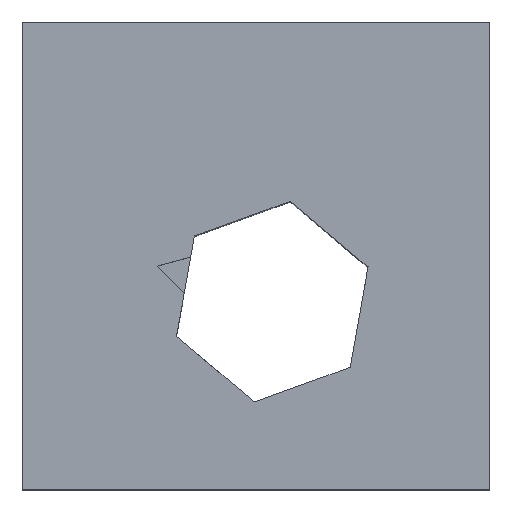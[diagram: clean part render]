
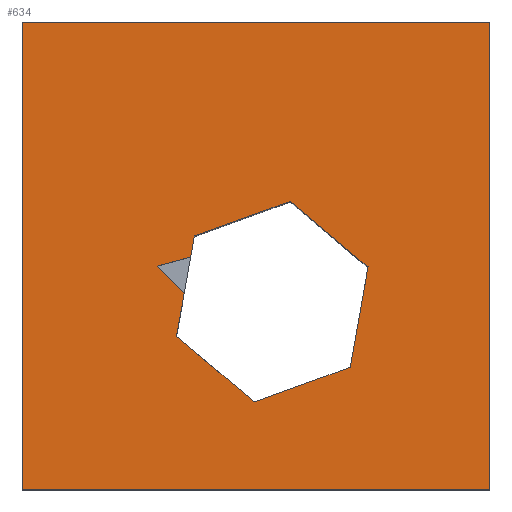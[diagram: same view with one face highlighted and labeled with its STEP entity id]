
A CAD part, top view. The second image highlights one B-rep face of the part: STEP entity #634.
In plain terms, the highlighted planar face has unit normal (0, 0, 1).
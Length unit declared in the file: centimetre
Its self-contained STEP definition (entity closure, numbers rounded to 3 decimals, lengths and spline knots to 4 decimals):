
#4 = LINE ( 'NONE', #356, #150 ) ;
#9 = VECTOR ( 'NONE', #450, 100. ) ;
#10 = VERTEX_POINT ( 'NONE', #276 ) ;
#11 = LINE ( 'NONE', #170, #571 ) ;
#12 = CARTESIAN_POINT ( 'NONE',  ( 0., 0., 1000. ) ) ;
#15 = DIRECTION ( 'NONE',  ( 0., 0., 1. ) ) ;
#22 = ORIENTED_EDGE ( 'NONE', *, *, #252, .T. ) ;
#23 = VERTEX_POINT ( 'NONE', #228 ) ;
#31 = LINE ( 'NONE', #140, #367 ) ;
#40 = LINE ( 'NONE', #408, #209 ) ;
#57 = CARTESIAN_POINT ( 'NONE',  ( 289.2115, 478.3214, 1000. ) ) ;
#68 = EDGE_CURVE ( 'NONE', #205, #74, #595, .T. ) ;
#70 = ORIENTED_EDGE ( 'NONE', *, *, #584, .F. ) ;
#74 = VERTEX_POINT ( 'NONE', #477 ) ;
#76 = CARTESIAN_POINT ( 'NONE',  ( 739.5676, 476.2735, 1000. ) ) ;
#87 = VECTOR ( 'NONE', #380, 100. ) ;
#97 = CARTESIAN_POINT ( 'NONE',  ( 1000., 1000., 1000. ) ) ;
#107 = VERTEX_POINT ( 'NONE', #235 ) ;
#109 = DIRECTION ( 'NONE',  ( -0.966, -0.26, 0. ) ) ;
#118 = VERTEX_POINT ( 'NONE', #97 ) ;
#121 = CARTESIAN_POINT ( 'NONE',  ( 368.1847, 542.496, 1000. ) ) ;
#127 = ORIENTED_EDGE ( 'NONE', *, *, #206, .T. ) ;
#140 = CARTESIAN_POINT ( 'NONE',  ( 0., 1000., 1000. ) ) ;
#148 = LINE ( 'NONE', #254, #9 ) ;
#150 = VECTOR ( 'NONE', #353, 100. ) ;
#155 = DIRECTION ( 'NONE',  ( -1., 0., 0. ) ) ;
#157 = EDGE_CURVE ( 'NONE', #174, #537, #31, .T. ) ;
#158 = DIRECTION ( 'NONE',  ( 0., 1., 0. ) ) ;
#159 = DIRECTION ( 'NONE',  ( 1., 0., 0. ) ) ;
#163 = CARTESIAN_POINT ( 'NONE',  ( 0., 0., 1000. ) ) ;
#170 = CARTESIAN_POINT ( 'NONE',  ( 628.5554, 569.7887, 1000. ) ) ;
#174 = VERTEX_POINT ( 'NONE', #241 ) ;
#189 = DIRECTION ( 'NONE',  ( 0., -1., 0. ) ) ;
#201 = LINE ( 'NONE', #598, #219 ) ;
#203 = LINE ( 'NONE', #357, #555 ) ;
#205 = VERTEX_POINT ( 'NONE', #638 ) ;
#206 = EDGE_CURVE ( 'NONE', #518, #531, #297, .T. ) ;
#209 = VECTOR ( 'NONE', #655, 100. ) ;
#216 = DIRECTION ( 'NONE',  ( 1., 0., 0. ) ) ;
#219 = VECTOR ( 'NONE', #639, 100. ) ;
#222 = EDGE_LOOP ( 'NONE', ( #256, #275, #371, #328 ) ) ;
#226 = DIRECTION ( 'NONE',  ( 0.176, 0.984, 0. ) ) ;
#228 = CARTESIAN_POINT ( 'NONE',  ( 496.5258, 187.7577, 1000. ) ) ;
#235 = CARTESIAN_POINT ( 'NONE',  ( 1000., 0., 1000. ) ) ;
#241 = CARTESIAN_POINT ( 'NONE',  ( 0., 1000., 1000. ) ) ;
#243 = EDGE_CURVE ( 'NONE', #485, #518, #40, .T. ) ;
#252 = EDGE_CURVE ( 'NONE', #531, #23, #148, .T. ) ;
#254 = CARTESIAN_POINT ( 'NONE',  ( 701.334, 261.8555, 1000. ) ) ;
#255 = EDGE_CURVE ( 'NONE', #118, #174, #203, .T. ) ;
#256 = ORIENTED_EDGE ( 'NONE', *, *, #157, .T. ) ;
#259 = VECTOR ( 'NONE', #158, 100. ) ;
#263 = CARTESIAN_POINT ( 'NONE',  ( 0., 0., 1000. ) ) ;
#270 = ORIENTED_EDGE ( 'NONE', *, *, #243, .T. ) ;
#275 = ORIENTED_EDGE ( 'NONE', *, *, #659, .T. ) ;
#276 = CARTESIAN_POINT ( 'NONE',  ( 360.1511, 497.4426, 1000. ) ) ;
#277 = CARTESIAN_POINT ( 'NONE',  ( 329.9511, 328.0779, 1000. ) ) ;
#278 = ORIENTED_EDGE ( 'NONE', *, *, #541, .T. ) ;
#297 = LINE ( 'NONE', #348, #461 ) ;
#313 = VECTOR ( 'NONE', #336, 100. ) ;
#315 = LINE ( 'NONE', #163, #587 ) ;
#321 = ORIENTED_EDGE ( 'NONE', *, *, #373, .F. ) ;
#324 = CARTESIAN_POINT ( 'NONE',  ( 1000., 1000., 1000. ) ) ;
#326 = EDGE_CURVE ( 'NONE', #23, #205, #4, .T. ) ;
#327 = VERTEX_POINT ( 'NONE', #449 ) ;
#328 = ORIENTED_EDGE ( 'NONE', *, *, #255, .T. ) ;
#336 = DIRECTION ( 'NONE',  ( 0.176, 0.984, 0. ) ) ;
#348 = CARTESIAN_POINT ( 'NONE',  ( 739.5676, 476.2735, 1000. ) ) ;
#351 = VECTOR ( 'NONE', #226, 100. ) ;
#353 = DIRECTION ( 'NONE',  ( -0.765, 0.644, 0. ) ) ;
#356 = CARTESIAN_POINT ( 'NONE',  ( 496.5258, 187.7577, 1000. ) ) ;
#357 = CARTESIAN_POINT ( 'NONE',  ( 0., 1000., 1000. ) ) ;
#367 = VECTOR ( 'NONE', #189, 100. ) ;
#371 = ORIENTED_EDGE ( 'NONE', *, *, #547, .T. ) ;
#373 = EDGE_CURVE ( 'NONE', #564, #74, #201, .T. ) ;
#380 = DIRECTION ( 'NONE',  ( 0.94, 0.34, 0. ) ) ;
#408 = CARTESIAN_POINT ( 'NONE',  ( 572.9929, 616.5938, 1000. ) ) ;
#415 = ORIENTED_EDGE ( 'NONE', *, *, #536, .T. ) ;
#418 = PLANE ( 'NONE',  #527 ) ;
#427 = LINE ( 'NONE', #324, #259 ) ;
#449 = CARTESIAN_POINT ( 'NONE',  ( 368.1847, 542.496, 1000. ) ) ;
#450 = DIRECTION ( 'NONE',  ( -0.94, -0.34, 0. ) ) ;
#461 = VECTOR ( 'NONE', #539, 100. ) ;
#475 = FACE_OUTER_BOUND ( 'NONE', #222, .T. ) ;
#477 = CARTESIAN_POINT ( 'NONE',  ( 346.4026, 420.3399, 1000. ) ) ;
#479 = ORIENTED_EDGE ( 'NONE', *, *, #68, .T. ) ;
#485 = VERTEX_POINT ( 'NONE', #546 ) ;
#518 = VERTEX_POINT ( 'NONE', #76 ) ;
#527 = AXIS2_PLACEMENT_3D ( 'NONE', #12, #15, #159 ) ;
#528 = CARTESIAN_POINT ( 'NONE',  ( 329.9511, 328.0779, 1000. ) ) ;
#531 = VERTEX_POINT ( 'NONE', #578 ) ;
#536 = EDGE_CURVE ( 'NONE', #10, #327, #583, .T. ) ;
#537 = VERTEX_POINT ( 'NONE', #263 ) ;
#539 = DIRECTION ( 'NONE',  ( -0.176, -0.984, 0. ) ) ;
#541 = EDGE_CURVE ( 'NONE', #327, #485, #635, .T. ) ;
#543 = ORIENTED_EDGE ( 'NONE', *, *, #326, .T. ) ;
#546 = CARTESIAN_POINT ( 'NONE',  ( 572.9929, 616.5938, 1000. ) ) ;
#547 = EDGE_CURVE ( 'NONE', #107, #118, #427, .T. ) ;
#555 = VECTOR ( 'NONE', #155, 100. ) ;
#564 = VERTEX_POINT ( 'NONE', #57 ) ;
#571 = VECTOR ( 'NONE', #109, 100. ) ;
#578 = CARTESIAN_POINT ( 'NONE',  ( 701.334, 261.8555, 1000. ) ) ;
#583 = LINE ( 'NONE', #277, #351 ) ;
#584 = EDGE_CURVE ( 'NONE', #10, #564, #11, .T. ) ;
#587 = VECTOR ( 'NONE', #216, 100. ) ;
#595 = LINE ( 'NONE', #528, #313 ) ;
#598 = CARTESIAN_POINT ( 'NONE',  ( 289.2115, 478.3214, 1000. ) ) ;
#628 = FACE_BOUND ( 'NONE', #658, .T. ) ;
#634 = ADVANCED_FACE ( 'NONE', ( #628, #475 ), #418, .T. ) ;
#635 = LINE ( 'NONE', #121, #87 ) ;
#638 = CARTESIAN_POINT ( 'NONE',  ( 329.9511, 328.0779, 1000. ) ) ;
#639 = DIRECTION ( 'NONE',  ( 0.702, -0.712, 0. ) ) ;
#655 = DIRECTION ( 'NONE',  ( 0.765, -0.644, 0. ) ) ;
#658 = EDGE_LOOP ( 'NONE', ( #321, #70, #415, #278, #270, #127, #22, #543, #479 ) ) ;
#659 = EDGE_CURVE ( 'NONE', #537, #107, #315, .T. ) ;
